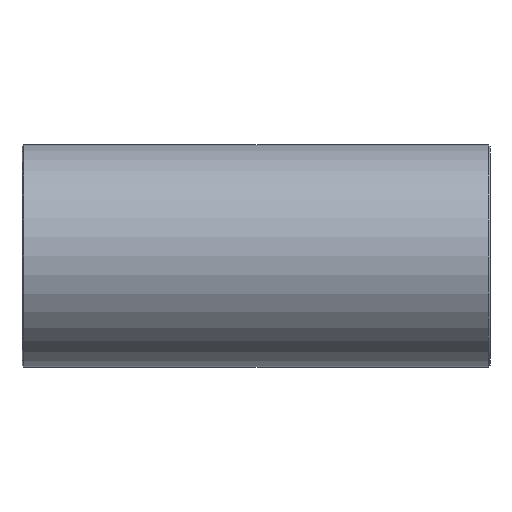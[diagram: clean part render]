
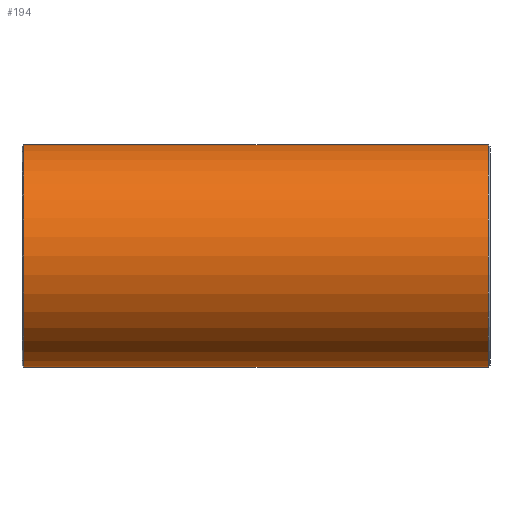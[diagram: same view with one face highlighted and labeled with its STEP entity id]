
A CAD part, front view. The second image highlights one B-rep face of the part: STEP entity #194.
In plain terms, the highlighted cylindrical face has radius 12.7 mm (diameter 25.4 mm), a full revolution.
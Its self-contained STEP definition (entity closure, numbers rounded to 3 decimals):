
#73=CARTESIAN_POINT('',(26.5,12.7,0.));
#74=VERTEX_POINT('',#73);
#75=CARTESIAN_POINT('',(26.5,0.0,0.0));
#76=DIRECTION('',(1.0,0.0,0.0));
#77=DIRECTION('',(0.0,-1.0,0.0));
#78=AXIS2_PLACEMENT_3D('',#75,#76,#77);
#79=CIRCLE('',#78,12.7);
#80=EDGE_CURVE('',#74,#74,#79,.T.);
#116=CARTESIAN_POINT('',(0.0,0.0,0.0));
#117=DIRECTION('',(1.0,0.0,0.0));
#118=DIRECTION('',(0.0,1.0,0.0));
#119=AXIS2_PLACEMENT_3D('',#116,#117,#118);
#120=CYLINDRICAL_SURFACE('',#119,12.7);
#121=CARTESIAN_POINT('',(-26.5,12.7,0.));
#122=VERTEX_POINT('',#121);
#123=CARTESIAN_POINT('',(-26.5,0.0,0.0));
#124=DIRECTION('',(-1.0,0.0,0.0));
#125=DIRECTION('',(0.0,-1.0,0.0));
#126=AXIS2_PLACEMENT_3D('',#123,#124,#125);
#127=CIRCLE('',#126,12.7);
#128=EDGE_CURVE('',#122,#122,#127,.T.);
#129=ORIENTED_EDGE('',*,*,#128,.F.);
#130=EDGE_LOOP('',(#129));
#131=FACE_OUTER_BOUND('',#130,.T.);
#132=CARTESIAN_POINT('',(0.,8.256,9.65));
#133=VERTEX_POINT('',#132);
#134=CARTESIAN_POINT('',(0.,8.256,9.65));
#135=CARTESIAN_POINT('',(0.452,8.256,9.65));
#136=CARTESIAN_POINT('',(1.358,8.309,9.606));
#137=CARTESIAN_POINT('',(2.673,8.532,9.41));
#138=CARTESIAN_POINT('',(3.923,8.866,9.098));
#139=CARTESIAN_POINT('',(5.499,9.419,8.537));
#140=CARTESIAN_POINT('',(6.89,10.05,7.798));
#141=CARTESIAN_POINT('',(8.133,10.688,6.879));
#142=CARTESIAN_POINT('',(9.065,11.199,6.021));
#143=CARTESIAN_POINT('',(9.953,11.715,4.965));
#144=CARTESIAN_POINT('',(10.736,12.19,3.658));
#145=CARTESIAN_POINT('',(11.279,12.528,2.251));
#146=CARTESIAN_POINT('',(11.563,12.708,0.755));
#147=CARTESIAN_POINT('',(11.561,12.707,-0.767));
#148=CARTESIAN_POINT('',(11.277,12.527,-2.258));
#149=CARTESIAN_POINT('',(10.82,12.242,-3.439));
#150=CARTESIAN_POINT('',(10.337,11.947,-4.325));
#151=CARTESIAN_POINT('',(9.789,11.619,-5.16));
#152=CARTESIAN_POINT('',(8.978,11.149,-6.125));
#153=CARTESIAN_POINT('',(7.827,10.522,-7.141));
#154=CARTESIAN_POINT('',(6.54,9.886,-7.994));
#155=CARTESIAN_POINT('',(5.099,9.268,-8.697));
#156=CARTESIAN_POINT('',(3.524,8.733,-9.228));
#157=CARTESIAN_POINT('',(1.804,8.35,-9.571));
#158=CARTESIAN_POINT('',(-0.005,8.208,-9.69));
#159=CARTESIAN_POINT('',(-1.817,8.352,-9.569));
#160=CARTESIAN_POINT('',(-3.529,8.735,-9.227));
#161=CARTESIAN_POINT('',(-5.12,9.276,-8.688));
#162=CARTESIAN_POINT('',(-6.548,9.889,-7.99));
#163=CARTESIAN_POINT('',(-8.28,10.748,-6.837));
#164=CARTESIAN_POINT('',(-9.576,11.491,-5.516));
#165=CARTESIAN_POINT('',(-10.478,12.033,-4.098));
#166=CARTESIAN_POINT('',(-10.918,12.303,-3.199));
#167=CARTESIAN_POINT('',(-11.31,12.548,-2.087));
#168=CARTESIAN_POINT('',(-11.562,12.708,-0.76));
#169=CARTESIAN_POINT('',(-11.562,12.707,0.761));
#170=CARTESIAN_POINT('',(-11.278,12.528,2.254));
#171=CARTESIAN_POINT('',(-10.821,12.243,3.434));
#172=CARTESIAN_POINT('',(-10.106,11.807,4.752));
#173=CARTESIAN_POINT('',(-9.245,11.298,5.858));
#174=CARTESIAN_POINT('',(-8.13,10.686,6.88));
#175=CARTESIAN_POINT('',(-7.203,10.21,7.568));
#176=CARTESIAN_POINT('',(-6.188,9.732,8.17));
#177=CARTESIAN_POINT('',(-5.101,9.279,8.679));
#178=CARTESIAN_POINT('',(-3.931,8.868,9.096));
#179=CARTESIAN_POINT('',(-2.672,8.531,9.41));
#180=CARTESIAN_POINT('',(-1.36,8.309,9.605));
#181=CARTESIAN_POINT('',(-0.452,8.256,9.65));
#182=CARTESIAN_POINT('',(0.,8.256,9.65));
#183=CARTESIAN_POINT('',(0.,8.256,9.65));
#184=CARTESIAN_POINT('',(0.,8.256,9.65));
#185=CARTESIAN_POINT('',(0.,8.256,9.65));
#186=B_SPLINE_CURVE_WITH_KNOTS('',3,(#134,#135,#136,#137,#138,#139,#140,#141,#142,#143,#144,#145,#146,#147,#148,#149,#150,#151,#152,#153,#154,#155,#156,#157,#158,#159,#160,#161,#162,#163,#164,#165,#166,#167,#168,#169,#170,#171,#172,#173,#174,#175,#176,#177,#178,#179,#180,#181,#182,#183,#184,#185),.UNSPECIFIED.,.T.,.U.,(4,1,1,1,1,1,1,1,1,1,1,1,1,1,1,1,1,1,1,1,1,1,1,1,1,1,1,1,1,1,1,1,1,1,1,1,1,1,1,1,1,1,1,1,1,1,3,4),(-5.728,-5.625,-5.523,-5.421,-5.319,-5.114,-5.012,-4.909,-4.773,-4.637,-4.5,-4.364,-4.228,-4.091,-3.955,-3.887,-3.818,-3.682,-3.546,-3.409,-3.273,-3.137,-3.,-2.864,-2.727,-2.591,-2.455,-2.318,-2.182,-1.909,-1.818,-1.727,-1.636,-1.5,-1.364,-1.227,-1.091,-1.023,-0.818,-0.716,-0.614,-0.511,-0.409,-0.307,-0.205,-0.102,0.0,0.),.UNSPECIFIED.);
#187=EDGE_CURVE('',#133,#133,#186,.T.);
#188=ORIENTED_EDGE('',*,*,#187,.F.);
#189=EDGE_LOOP('',(#188));
#190=FACE_BOUND('',#189,.T.);
#191=ORIENTED_EDGE('',*,*,#80,.F.);
#192=EDGE_LOOP('',(#191));
#193=FACE_BOUND('',#192,.T.);
#194=ADVANCED_FACE('',(#131,#190,#193),#120,.T.);
